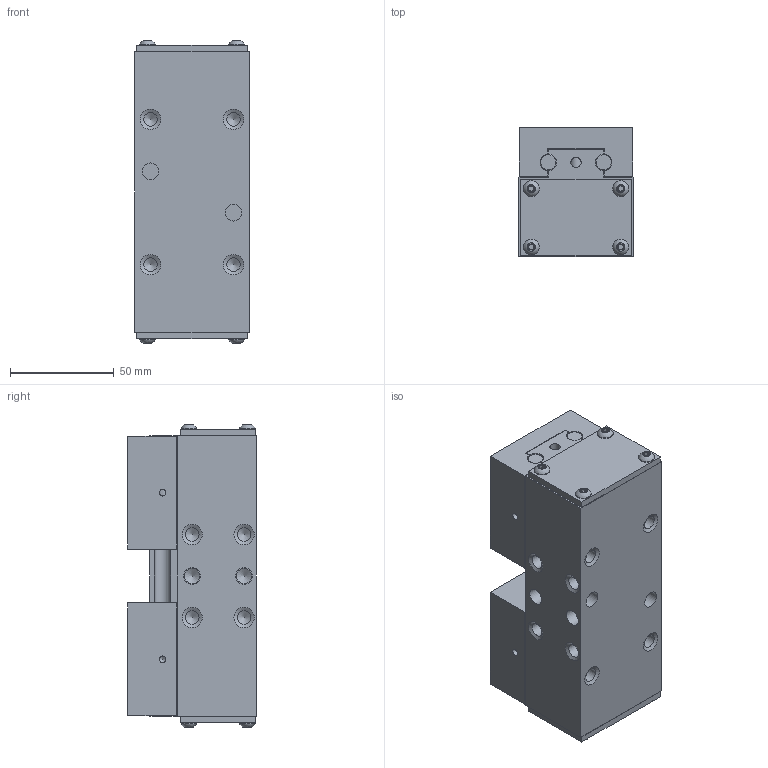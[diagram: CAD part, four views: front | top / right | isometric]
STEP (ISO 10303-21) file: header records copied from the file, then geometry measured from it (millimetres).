
FILE_DESCRIPTION(/* description */ (''),/* implementation_level */ '2;1');
FILE_NAME(/* name */ 'Z:\CAD-Zaytran\Product\Magnum\MAGNUM - 450\STEP\Magnum 450-26\Magnum 450-26 - Open.stp',/* time_stamp */ '2019-07-26T14:57:46-04:00',/* author */ ('Tyler'),/* organization */ (''),/* preprocessor_version */ 'ST-DEVELOPER v17.2',/* originating_system */ 'Autodesk Inventor 2019',/* authorisation */ '');
FILE_SCHEMA (('AUTOMOTIVE_DESIGN { 1 0 10303 214 3 1 1 }'));
Length unit declared in the file: inch
Products named in the file (20): Magnum 450-26 - Open; Magnum 450-26 - Open_1; Magnum 450-26 - Open_1_1; Magnum 450-26 - Open_2; Magnum 450-26 - Open_3; Magnum 450-26 - Open_4; Magnum 450-26 - Open_5; Magnum 450-26 - Open_6; Magnum 450-26 - Open_7; Magnum 450-26 - Open_8; Magnum 450-26 - Open_9; Magnum 450-26 - Open_10; Magnum 450-26 - Open_11; Magnum 450-26 - Open_12; Magnum 450-26 - Open_13; Magnum 450-26 - Open_14; Magnum 450-26 - Open_15; Magnum 450-26 - Open_16; Magnum 450-26 - Open_17; Magnum 450-26 - Open_18
Assembly tree (19 placements, depth 2):
  Magnum 450-26 - Open
    Magnum 450-26 - Open_1
    Magnum 450-26 - Open_1_1
    Magnum 450-26 - Open_2
    Magnum 450-26 - Open_3
    Magnum 450-26 - Open_4
    Magnum 450-26 - Open_5
    Magnum 450-26 - Open_6
    Magnum 450-26 - Open_7
    Magnum 450-26 - Open_8
    Magnum 450-26 - Open_9
    Magnum 450-26 - Open_10
    Magnum 450-26 - Open_11
    Magnum 450-26 - Open_12
    Magnum 450-26 - Open_13
    Magnum 450-26 - Open_14
    Magnum 450-26 - Open_15
    Magnum 450-26 - Open_16
    Magnum 450-26 - Open_17
    Magnum 450-26 - Open_18
Bounding box: 54.96 x 61.96 x 145.98 mm (x, y, z)
Volume: 316220.1 mm3; surface area: 107598.1 mm2
Topology: 19 solids, 19 shells, 677 faces, 1805 edges, 1222 vertices
Faces by surface type: cylinder 330, plane 193, cone 128, bspline 16, sphere 8, torus 2
Full cylindrical faces by diameter (mm): 2.464 x10, 3.091 x88, 3.175 x6, 3.251 x16, 3.404 x4, 3.572 x4, 3.962 x4, 4 x72, 4.394 x8, 4.623 x1, 4.902 x2, 4.928 x3, 6.32 x2, 6.375 x2, 6.401 x2, 6.655 x16, 7.518 x6, 7.6 x8, 8.009 x4, 8.01 x4, 8.026 x4, 8.611 x3, 28.321 x2, 28.575 x2, 30.124 x1
Entity records: 36187 total; most frequent: CARTESIAN_POINT 19102, ORIENTED_EDGE 3538, DIRECTION 3262, EDGE_CURVE 1769, AXIS2_PLACEMENT_3D 1302, VERTEX_POINT 1222, EDGE_LOOP 841, FACE_OUTER_BOUND 677
